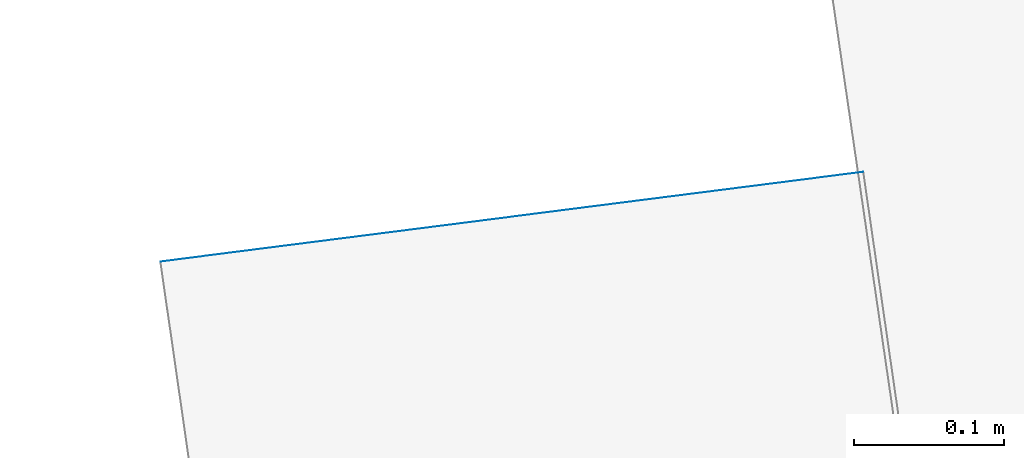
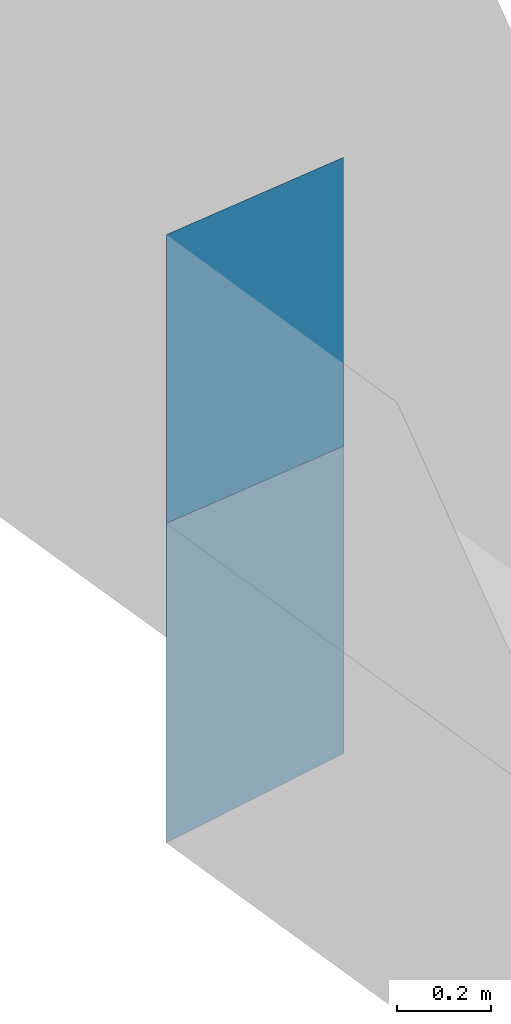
# Not in any storey, part 43 of 59: 3 walls.
"""IFC4 building model written with IfcOpenShell, lengths in metres."""

from ifc_helpers import new_model, entity, si_unit, converted_unit, frame, origin, place, context, subcontext, project, spatial, face_set, surface_model, element, save


model = new_model("IFC4")

# Units and contexts
model_context = context("Model", 3, precision=1e-05, world=origin())
body_context = subcontext(model_context, "Body", "Model", "MODEL_VIEW")
ifc_project = project(units=[converted_unit("PLANEANGLEUNIT", "DEGREE", entity("IfcRatioMeasure", 0.0174532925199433), si_unit("PLANEANGLEUNIT", "RADIAN"), dimensions=[0, 0, 0, 0, 0, 0, 0]), si_unit("AREAUNIT", "SQUARE_METRE"), si_unit("LENGTHUNIT", "METRE")], contexts=[model_context])

# Site, building
site_placement = place(None, origin())
site = spatial("IfcSite", under=ifc_project, at=site_placement, Name="_site")
building_placement = place(site_placement, origin())
building = spatial("IfcBuilding", under=site, at=building_placement, Name="_building")

# Walls
for number, where, name in (
    (1, (0.0, 0.0, 0.0), "Wall"),
    (2, (0.0, 0.0, 0.0), "Wall"),
):
    element("IfcWall", number, at=place(building_placement, frame(where)), inside=building, Name=name, PredefinedType="NOTDEFINED", context=body_context, shape_type="SurfaceModel", body=[
        surface_model("IfcFaceBasedSurfaceModel", [(76.63, 30.43, 220.02), (77.1, 30.49, 220.02), (77.1, 30.49, 220.77), (76.63, 30.43, 220.77)], [face_set([[[0, 1, 2, 3]]])]),
    ])
wall_placement = place(building_placement, origin())
element("IfcWall", 3, at=wall_placement, inside=building, Name="Wall", PredefinedType="NOTDEFINED", context=body_context, shape_type="SurfaceModel", body=[
    surface_model("IfcFaceBasedSurfaceModel", [(76.63, 30.43, 220.02), (77.1, 30.49, 220.02), (77.1, 30.49, 219.222), (76.63, 30.43, 219.191)], [face_set([[[0, 1, 2, 3]]])]),
])

save(model, "model.ifc")
